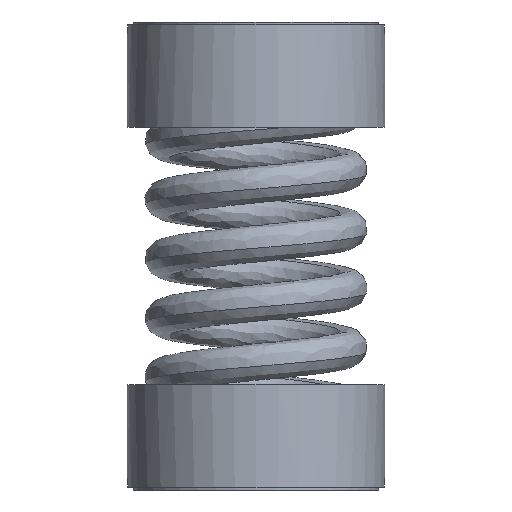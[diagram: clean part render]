
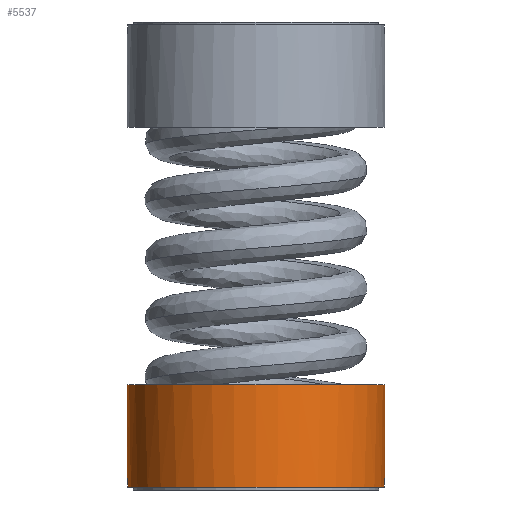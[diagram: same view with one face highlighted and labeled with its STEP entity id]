
A CAD part, left-side view. The second image highlights one B-rep face of the part: STEP entity #5537.
In plain terms, the highlighted cylindrical face has radius 34.925 mm (diameter 69.85 mm), a full revolution.
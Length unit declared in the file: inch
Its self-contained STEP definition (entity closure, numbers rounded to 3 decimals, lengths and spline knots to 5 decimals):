
#371=LINE('',#7972,#945);
#385=LINE('',#8001,#959);
#400=LINE('',#8035,#974);
#413=LINE('',#8062,#987);
#945=VECTOR('',#6445,0.095);
#959=VECTOR('',#6461,0.095);
#974=VECTOR('',#6484,0.095);
#987=VECTOR('',#6499,0.095);
#1540=FACE_BOUND('',#2011,.T.);
#1698=FACE_OUTER_BOUND('',#2010,.T.);
#2010=EDGE_LOOP('',(#4217,#4218,#4219,#4220,#4221,#4222,#4223,#4224));
#2011=EDGE_LOOP('',(#4225));
#2216=CIRCLE('',#5805,1.375);
#2218=CIRCLE('',#5810,1.375);
#2220=CIRCLE('',#5813,1.375);
#2223=CIRCLE('',#5817,1.375);
#2245=CIRCLE('',#5863,1.375);
#2462=VERTEX_POINT('',#7970);
#2463=VERTEX_POINT('',#7971);
#2476=VERTEX_POINT('',#7999);
#2477=VERTEX_POINT('',#8000);
#2490=VERTEX_POINT('',#8028);
#2492=VERTEX_POINT('',#8034);
#2504=VERTEX_POINT('',#8060);
#2505=VERTEX_POINT('',#8061);
#2519=VERTEX_POINT('',#8143);
#3054=EDGE_CURVE('',#2462,#2463,#371,.T.);
#3068=EDGE_CURVE('',#2476,#2477,#385,.T.);
#3082=EDGE_CURVE('',#2463,#2490,#2216,.T.);
#3085=EDGE_CURVE('',#2490,#2492,#400,.T.);
#3098=EDGE_CURVE('',#2504,#2505,#413,.T.);
#3112=EDGE_CURVE('',#2505,#2476,#2218,.T.);
#3114=EDGE_CURVE('',#2492,#2504,#2220,.T.);
#3117=EDGE_CURVE('',#2477,#2462,#2223,.T.);
#3139=EDGE_CURVE('',#2519,#2519,#2245,.T.);
#4217=ORIENTED_EDGE('',*,*,#3068,.T.);
#4218=ORIENTED_EDGE('',*,*,#3117,.T.);
#4219=ORIENTED_EDGE('',*,*,#3054,.T.);
#4220=ORIENTED_EDGE('',*,*,#3082,.T.);
#4221=ORIENTED_EDGE('',*,*,#3085,.T.);
#4222=ORIENTED_EDGE('',*,*,#3114,.T.);
#4223=ORIENTED_EDGE('',*,*,#3098,.T.);
#4224=ORIENTED_EDGE('',*,*,#3112,.T.);
#4225=ORIENTED_EDGE('',*,*,#3139,.F.);
#5090=CYLINDRICAL_SURFACE('',#5862,1.375);
#5537=ADVANCED_FACE('',(#1698,#1540),#5090,.T.);
#5805=AXIS2_PLACEMENT_3D('',#8029,#6477,#6478);
#5810=AXIS2_PLACEMENT_3D('',#8089,#6515,#6516);
#5813=AXIS2_PLACEMENT_3D('',#8092,#6521,#6522);
#5817=AXIS2_PLACEMENT_3D('',#8096,#6529,#6530);
#5862=AXIS2_PLACEMENT_3D('',#8142,#6619,#6620);
#5863=AXIS2_PLACEMENT_3D('',#8144,#6621,#6622);
#6445=DIRECTION('',(0.,0.,1.));
#6461=DIRECTION('',(0.,0.,-1.));
#6477=DIRECTION('center_axis',(0.,0.,1.));
#6478=DIRECTION('ref_axis',(-1.,0.,0.));
#6484=DIRECTION('',(0.,0.,-1.));
#6499=DIRECTION('',(0.,0.,1.));
#6515=DIRECTION('center_axis',(0.,0.,1.));
#6516=DIRECTION('ref_axis',(-1.,0.,0.));
#6521=DIRECTION('center_axis',(0.,0.,1.));
#6522=DIRECTION('ref_axis',(-1.,0.,0.));
#6529=DIRECTION('center_axis',(0.,0.,1.));
#6530=DIRECTION('ref_axis',(-1.,0.,0.));
#6619=DIRECTION('center_axis',(0.,0.,1.));
#6620=DIRECTION('ref_axis',(-1.,0.,0.));
#6621=DIRECTION('center_axis',(0.,0.,1.));
#6622=DIRECTION('ref_axis',(-1.,0.,0.));
#7970=CARTESIAN_POINT('',(0.09375,1.3718,0.03));
#7971=CARTESIAN_POINT('',(0.09375,1.3718,0.125));
#7972=CARTESIAN_POINT('',(0.09375,1.3718,0.5775));
#7999=CARTESIAN_POINT('',(0.09375,-1.3718,0.125));
#8000=CARTESIAN_POINT('',(0.09375,-1.3718,0.03));
#8001=CARTESIAN_POINT('',(0.09375,-1.3718,0.5775));
#8028=CARTESIAN_POINT('',(-0.09375,1.3718,0.125));
#8029=CARTESIAN_POINT('Origin',(0.,0.,0.125));
#8034=CARTESIAN_POINT('',(-0.09375,1.3718,0.03));
#8035=CARTESIAN_POINT('',(-0.09375,1.3718,0.5775));
#8060=CARTESIAN_POINT('',(-0.09375,-1.3718,0.03));
#8061=CARTESIAN_POINT('',(-0.09375,-1.3718,0.125));
#8062=CARTESIAN_POINT('',(-0.09375,-1.3718,0.5775));
#8089=CARTESIAN_POINT('Origin',(0.,0.,0.125));
#8092=CARTESIAN_POINT('Origin',(0.,0.,0.03));
#8096=CARTESIAN_POINT('Origin',(0.,0.,0.03));
#8142=CARTESIAN_POINT('Origin',(0.,0.,0.5775));
#8143=CARTESIAN_POINT('',(-1.375,0.,1.125));
#8144=CARTESIAN_POINT('Origin',(0.,0.,1.125));
